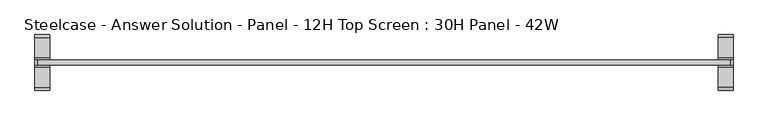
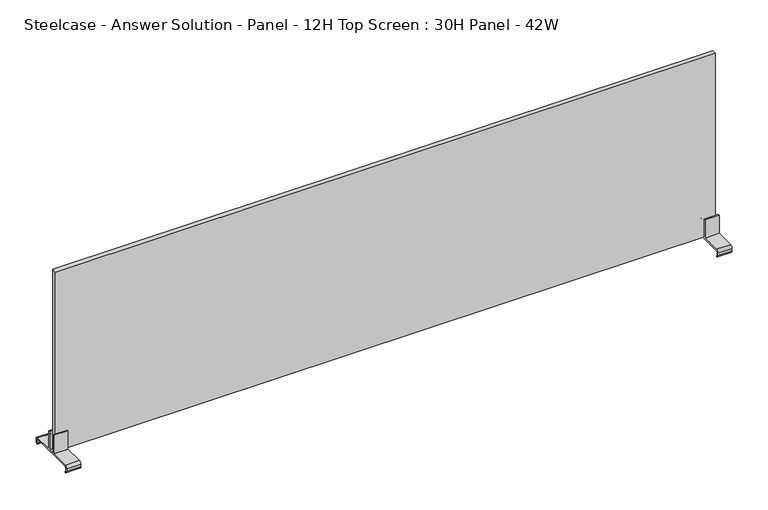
"""IFC4 building model written with IfcOpenShell, lengths in millimetres: furniture geometry, Steelcase - Answer Solution - Panel - 12H Top Screen : 30H Panel - 42W."""

from ifc_helpers import new_model, si_unit, point, frame, frame_2d, origin, place, context, project, spatial, polyline, circle_curve, trimmed, segment, composite_curve, outline, extrude, source, transform, mapped, element, save


def steelcase_answer_solution_panel_12h_top_screen_30h_panel_42w_58d457fc(model_context):
    return source(origin(), model_context, "Body", "SweptSolid", [
        extrude(outline(polyline([(529.336, -3.683001), (-529.336, -3.683001), (-529.336, 3.683001), (529.336, 3.683001), (529.336, -3.683001)])), frame((0.0, 0.0, 770.3819981), z_axis=(0.0, 0.0, 1.0), x_axis=(1.0, 0.0, 0.0)), (0.0, 0.0, 1.0), 304.8),
        extrude(outline(composite_curve([segment(trimmed(circle_curve(frame_2d((38.5445, 766.445)), 1.905), [point((40.4495, 766.445))], [point((38.5445, 768.35))], True, "CARTESIAN"), True, "CONTINUOUS"), segment(polyline([(38.5445, 768.35), (-38.5445, 768.35)]), True, "CONTINUOUS"), segment(trimmed(circle_curve(frame_2d((-38.5445, 766.445)), 1.905), [point((-38.5445, 768.35))], [point((-40.4495, 766.445))], True, "CARTESIAN"), True, "CONTINUOUS"), segment(polyline([(-40.4495, 766.445), (-40.4495, 761.8341187)]), True, "CONTINUOUS"), segment(trimmed(circle_curve(frame_2d((-38.5445, 761.8341187)), 1.905), [point((-40.4495, 761.8341187))], [point((-38.6743328, 759.9335481))], True, "CARTESIAN"), True, "CONTINUOUS"), segment(polyline([(-38.6743328, 759.9335481), (-39.2392449, 758.3535566)]), True, "CONTINUOUS"), segment(trimmed(circle_curve(frame_2d((-38.5459934, 762.2284569)), 3.9364261), [point((-39.2392449, 758.3535566))], [point((-42.4824195, 762.2284569))], False, "CARTESIAN"), True, "CONTINUOUS"), segment(polyline([(-42.4824195, 762.2284569), (-42.4824195, 766.4452288)]), True, "CONTINUOUS"), segment(trimmed(circle_curve(frame_2d((-38.5459934, 766.4452288)), 3.9364261), [point((-42.4824195, 766.4452288))], [point((-38.5459934, 770.3816549))], False, "CARTESIAN"), True, "CONTINUOUS"), segment(polyline([(-38.5459934, 770.3816549), (-6.7310004, 770.3816549), (-6.7310004, 801.3699952), (-4.699, 801.3699952), (-4.699, 770.3819952), (4.699, 770.3819952), (4.699, 801.3700048), (6.7310004, 801.3700048), (6.7310004, 770.3816549), (38.5459934, 770.3816549)]), True, "CONTINUOUS"), segment(trimmed(circle_curve(frame_2d((38.5459934, 766.4452288)), 3.9364261), [point((38.5459934, 770.3816549))], [point((42.4824195, 766.4452288))], False, "CARTESIAN"), True, "CONTINUOUS"), segment(polyline([(42.4824195, 766.4452288), (42.4824195, 762.2284569)]), True, "CONTINUOUS"), segment(trimmed(circle_curve(frame_2d((38.5459934, 762.2284569)), 3.9364261), [point((42.4824195, 762.2284569))], [point((39.6631716, 758.4538889))], False, "CARTESIAN"), True, "CONTINUOUS"), segment(polyline([(39.6631716, 758.4538889), (39.1055128, 760.0135996)]), True, "CONTINUOUS"), segment(trimmed(circle_curve(frame_2d((38.5445, 761.8341187)), 1.905), [point((39.1055128, 760.0135996))], [point((40.4495, 761.8341187))], True, "CARTESIAN"), True, "CONTINUOUS"), segment(polyline([(40.4495, 761.8341187), (40.4495, 766.445)]), True, "CONTINUOUS")], self_intersect=False)), frame((510.794, 0.0, 0.0), z_axis=(1.0, 0.0, 0.0), x_axis=(0.0, 1.0, 0.0)), (0.0, 0.0, 1.0), 22.606),
        extrude(outline(composite_curve([segment(trimmed(circle_curve(frame_2d((38.5445, 766.445)), 1.905), [point((40.4495, 766.445))], [point((38.5445, 768.35))], True, "CARTESIAN"), True, "CONTINUOUS"), segment(polyline([(38.5445, 768.35), (-38.5445, 768.35)]), True, "CONTINUOUS"), segment(trimmed(circle_curve(frame_2d((-38.5445, 766.445)), 1.905), [point((-38.5445, 768.35))], [point((-40.4495, 766.445))], True, "CARTESIAN"), True, "CONTINUOUS"), segment(polyline([(-40.4495, 766.445), (-40.4495, 761.8341187)]), True, "CONTINUOUS"), segment(trimmed(circle_curve(frame_2d((-38.5445, 761.8341187)), 1.905), [point((-40.4495, 761.8341187))], [point((-38.6743328, 759.9335481))], True, "CARTESIAN"), True, "CONTINUOUS"), segment(polyline([(-38.6743328, 759.9335481), (-39.2392449, 758.3535566)]), True, "CONTINUOUS"), segment(trimmed(circle_curve(frame_2d((-38.5459934, 762.2284569)), 3.9364261), [point((-39.2392449, 758.3535566))], [point((-42.4824195, 762.2284569))], False, "CARTESIAN"), True, "CONTINUOUS"), segment(polyline([(-42.4824195, 762.2284569), (-42.4824195, 766.4452288)]), True, "CONTINUOUS"), segment(trimmed(circle_curve(frame_2d((-38.5459934, 766.4452288)), 3.9364261), [point((-42.4824195, 766.4452288))], [point((-38.5459934, 770.3816549))], False, "CARTESIAN"), True, "CONTINUOUS"), segment(polyline([(-38.5459934, 770.3816549), (-6.7310004, 770.3816549), (-6.7310004, 801.3699952), (-4.699, 801.3699952), (-4.699, 770.3819952), (4.699, 770.3819952), (4.699, 801.3700048), (6.7310004, 801.3700048), (6.7310004, 770.3816549), (38.5459934, 770.3816549)]), True, "CONTINUOUS"), segment(trimmed(circle_curve(frame_2d((38.5459934, 766.4452288)), 3.9364261), [point((38.5459934, 770.3816549))], [point((42.4824195, 766.4452288))], False, "CARTESIAN"), True, "CONTINUOUS"), segment(polyline([(42.4824195, 766.4452288), (42.4824195, 762.2284569)]), True, "CONTINUOUS"), segment(trimmed(circle_curve(frame_2d((38.5459934, 762.2284569)), 3.9364261), [point((42.4824195, 762.2284569))], [point((39.6631716, 758.4538889))], False, "CARTESIAN"), True, "CONTINUOUS"), segment(polyline([(39.6631716, 758.4538889), (39.1055128, 760.0135996)]), True, "CONTINUOUS"), segment(trimmed(circle_curve(frame_2d((38.5445, 761.8341187)), 1.905), [point((39.1055128, 760.0135996))], [point((40.4495, 761.8341187))], True, "CARTESIAN"), True, "CONTINUOUS"), segment(polyline([(40.4495, 761.8341187), (40.4495, 766.445)]), True, "CONTINUOUS")], self_intersect=False)), frame((-533.4, 0.0, 0.0), z_axis=(1.0, 0.0, 0.0), x_axis=(0.0, 1.0, 0.0)), (0.0, 0.0, 1.0), 22.606),
    ])


if __name__ == "__main__":
    model = new_model("IFC4")
    model_context = context("Model", 3, world=origin())
    ifc_project = project(units=[si_unit("LENGTHUNIT", "METRE", prefix="MILLI")], contexts=[model_context])
    site = spatial("IfcSite", under=ifc_project)
    building = spatial("IfcBuilding", under=site)
    placement = place(None, origin())
    steelcase_answer_solution_panel_12h_top_screen_30h_panel_42w_shape = steelcase_answer_solution_panel_12h_top_screen_30h_panel_42w_58d457fc(model_context)
    element("IfcFurniture", 1, ObjectType="Steelcase - Answer Solution - Panel - 12H Top Screen : 30H Panel - 42W", at=placement, inside=building, context=model_context, shape_type="MappedRepresentation", body=[
        mapped(steelcase_answer_solution_panel_12h_top_screen_30h_panel_42w_shape, transform((0.0, 0.0, 0.0), x_axis=(1.0, 0.0, 0.0), y_axis=(0.0, 1.0, 0.0), z_axis=(0.0, 0.0, 1.0))),
    ])
    save(model, "model.ifc")
